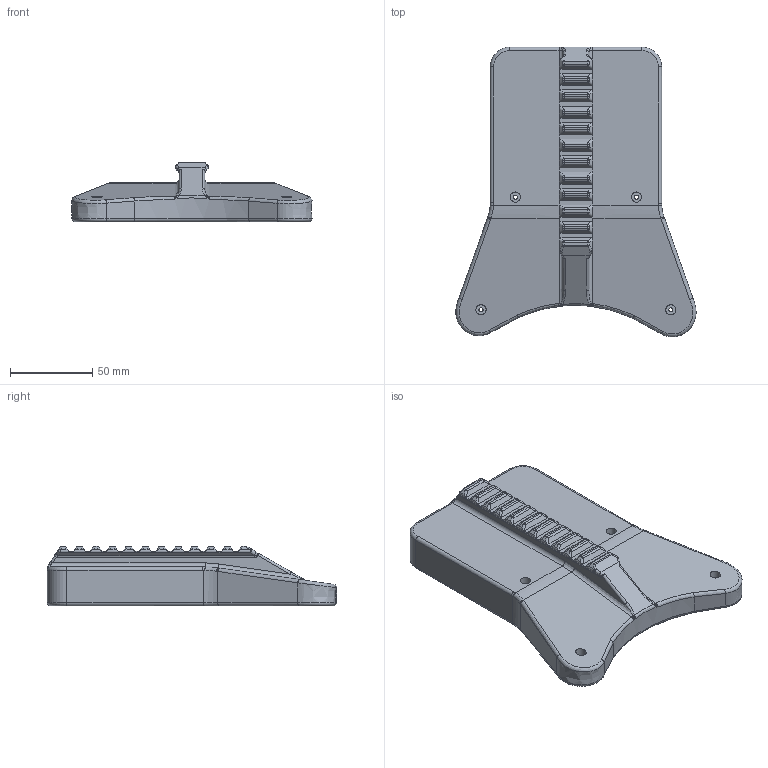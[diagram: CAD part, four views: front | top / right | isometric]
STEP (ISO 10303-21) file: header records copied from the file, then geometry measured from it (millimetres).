
FILE_DESCRIPTION(/* description */ (''),/* implementation_level */ '2;1');
FILE_NAME(/* name */ 'Grip Frame Upper Pic Rail Metric.stp',/* time_stamp */ '2026-08-13T19:16:50-06:00',/* author */ (''),/* organization */ (''),/* preprocessor_version */ 'ST-DEVELOPER v18.102',/* originating_system */ 'SIEMENS PLM Software NX 2027',/* authorisation */ '');
FILE_SCHEMA (('AUTOMOTIVE_DESIGN { 1 0 10303 214 3 1 1 1 }'));
Length unit declared in the file: millimetre
Products named in the file (1): Grip Frame Upper Pic Rail Metric
Bounding box: 146.2 x 176.26 x 36.4 mm (x, y, z)
Volume: 427849.8 mm3; surface area: 54232.5 mm2
Topology: 1 solids, 1 shells, 341 faces, 849 edges, 456 vertices
Faces by surface type: cylinder 138, plane 91, sphere 56, bspline 39, torus 11, extrusion 6
Full cylindrical faces by diameter (mm): 2.532 x4, 6.209 x4
Entity records: 10962 total; most frequent: CARTESIAN_POINT 3372, DIRECTION 1633, ORIENTED_EDGE 1560, EDGE_CURVE 780, AXIS2_PLACEMENT_3D 646, VERTEX_POINT 453, EDGE_LOOP 361, ADVANCED_FACE 341
